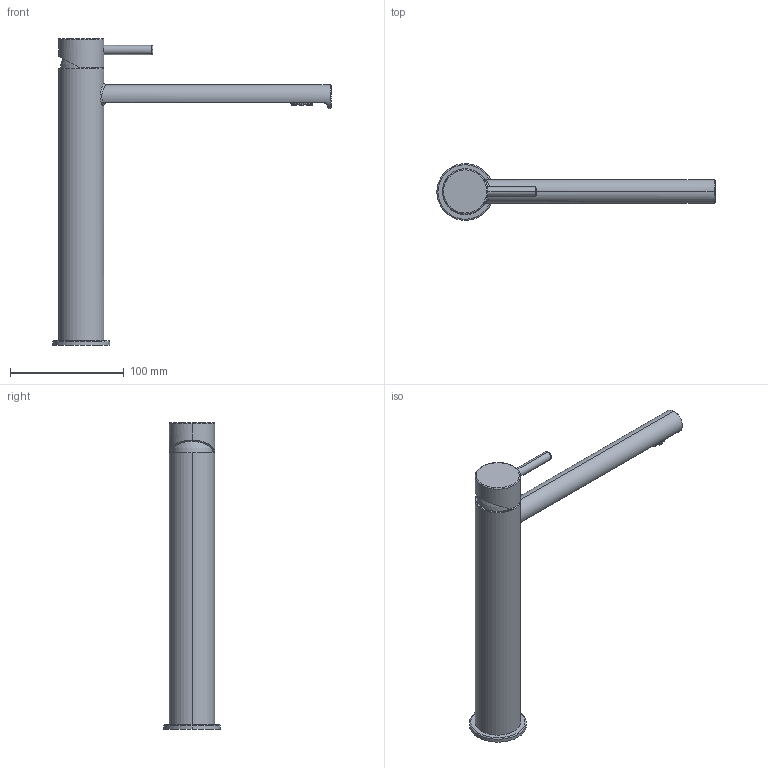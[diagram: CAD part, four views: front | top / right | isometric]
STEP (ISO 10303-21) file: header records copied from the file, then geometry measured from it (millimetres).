
FILE_DESCRIPTION (( 'STEP AP214' ), '1' );
FILE_NAME ('49301810 x architetti.STEP', '2024-11-13T15:40:56', ( '' ), ( '' ), 'SwSTEP 2.0', 'SolidWorks 2020', '' );
FILE_SCHEMA (( 'AUTOMOTIVE_DESIGN' ));
Length unit declared in the file: millimetre
Products named in the file (3): 49301810 x architetti; F0005599       
Assembly tree (2 placements, depth 2):
  49301810 x architetti
    F0005599       
    49301810 x architetti
Bounding box: 245 x 50 x 270 mm (x, y, z)
Volume: 391921.9 mm3; surface area: 66502.4 mm2
Topology: 6 solids, 6 shells, 3928 faces, 11346 edges, 7344 vertices
Faces by surface type: plane 3347, cylinder 426, bspline 132, torus 12, cone 10, sphere 1
Entity records: 158384 total; most frequent: CARTESIAN_POINT 49848, ORIENTED_EDGE 22686, DIRECTION 13716, EDGE_CURVE 11343, VERTEX_POINT 7342, VECTOR 5218, LINE 5218, B_SPLINE_CURVE_WITH_KNOTS 5043
